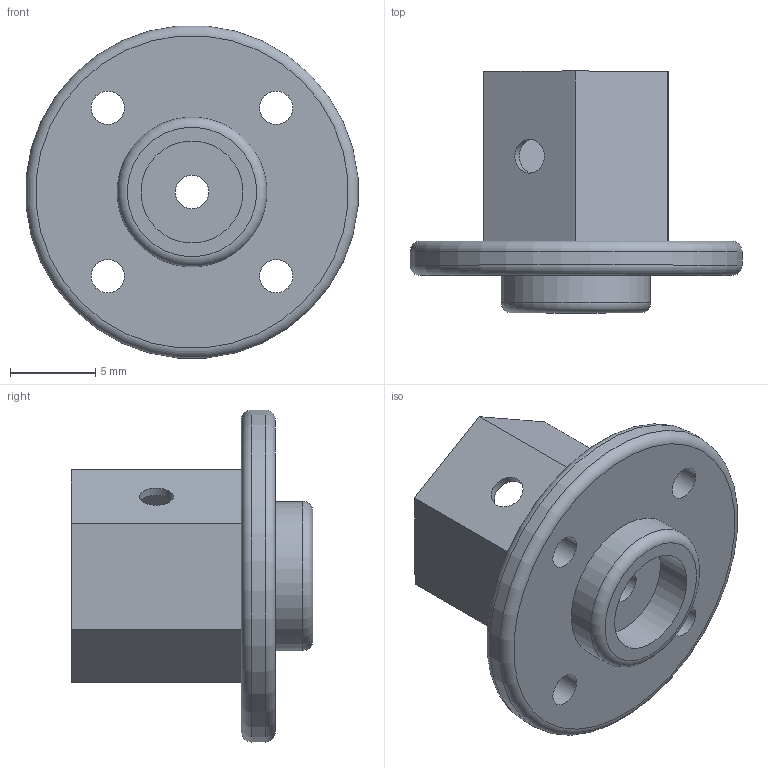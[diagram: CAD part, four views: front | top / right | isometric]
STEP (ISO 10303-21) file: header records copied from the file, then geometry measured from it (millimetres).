
FILE_DESCRIPTION(/* description */ ('STEP AP242 Edition 2','CAx-IF Rec.Pracs.---Representation and Presentation of Product Manufacturing Information (PMI)---4.0---2014-10-13','CAx-IF Rec.Pracs.---3D Tessellated Geometry---0.4---2014-09-14','2;1','CAx-IF Rec.Pracs.---User Defined Attributes---1.5---2016-08-15'),/* implementation_level */ '2;1');
FILE_NAME(/* name */ 'Assembly 1 - Servo',/* time_stamp */ '2026-08-25T12:50:00Z',/* author */ (''),/* organization */ (''),/* preprocessor_version */ 'ST-DEVELOPER v20',/* originating_system */ 'ONSHAPE BY PTC INC, 1.219',/* authorisation */ ' ');
FILE_SCHEMA (('AP242_MANAGED_MODEL_BASED_3D_ENGINEERING_MIM_LF { 1 0 10303 442 3 1 4 }'));
Length unit declared in the file: metre
Products named in the file (1): Servo
Bounding box: 19.5 x 14.2 x 19.5 mm (x, y, z)
Volume: 807.4 mm3; surface area: 1526.8 mm2
Topology: 1 solids, 1 shells, 31 faces, 73 edges, 48 vertices
Faces by surface type: plane 18, cylinder 10, torus 3
Full cylindrical faces by diameter (mm): 1.958 x5, 2 x2, 6 x1, 8.8 x1, 19.577 x1
Entity records: 870 total; most frequent: DIRECTION 146, CARTESIAN_POINT 138, ORIENTED_EDGE 118, EDGE_LOOP 62, FACE_BOUND 62, EDGE_CURVE 59, AXIS2_PLACEMENT_3D 55, VERTEX_POINT 47
